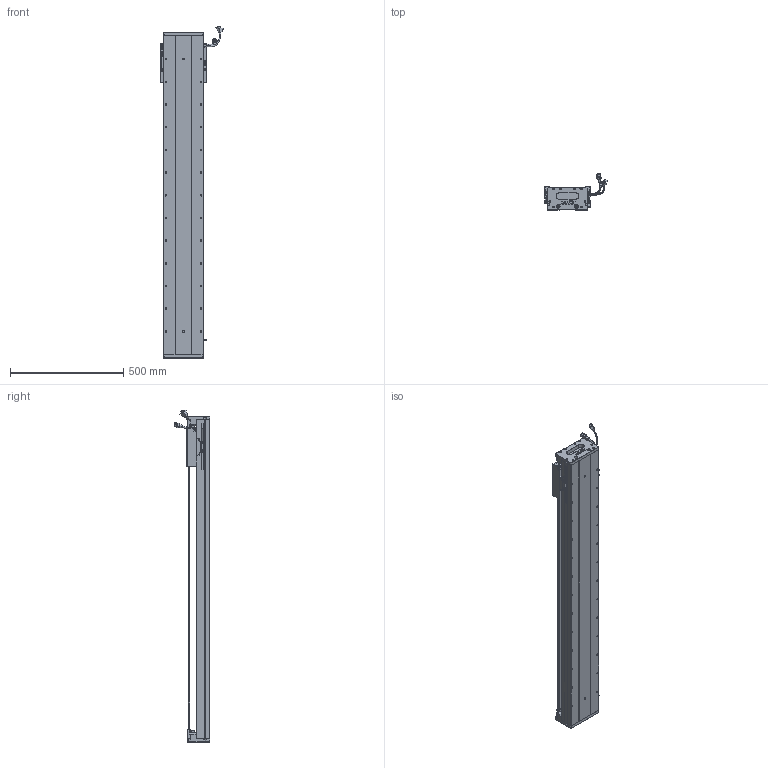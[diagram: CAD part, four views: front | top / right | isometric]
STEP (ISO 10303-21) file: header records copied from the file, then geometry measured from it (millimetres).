
FILE_DESCRIPTION (( 'STEP AP203' ), '1' );
FILE_NAME ('Z2-RY170D-1-L500-B-K.SLDASM_1150.step', '2021-05-17T09:07:40', ( '盈信电脑' ), ( '东莞市道滘镇水果街19号' ), 'SwSTEP 2.0', 'SolidWorks 2016', '' );
FILE_SCHEMA (( 'CONFIG_CONTROL_DESIGN' ));
Length unit declared in the file: millimetre
Products named in the file (36): SCREW-M1.7-1; LABEL; HARNESS-Part-1; COVER-Part-1; SCREW-M1.6-2; Z2-RY170臏賑輸(21遴); SCALE-Part-2; PSLH080_PSLF2; SCALE; SCREW-M1.6-3; SEAL; LABEL-Part-1; Z2-RY170-L500耀郪菁釱_1150; SHIELDPLATE; Z-RY170詩湍奻揤裔; SCREW-M1.7; COVER; SEAL-Part-1; 170-Z-臏賑輸盄裔(21遴); Z2-RY170-L500詩湍145mm遵_1150; 榋妏寠巭燃_暯_M2_2; 140雄赽晤鎢ん堤盄; PBU_SHEET; Z-170詩湍傷裔啣; SCALE-Part-1; Z2-RY170D-1-L500-B-K.SLDASM_1150; 140蚥薯蝶輸; SCREW-M1.6; HOLDER0; SCREW-M1.6-1; HARNESS; 080黍杅芛假蚾釱21遴; 覜茼ん672; Z-RY170詩湍狟揤裔; HARNESS-Part-2; RY170直线电机感应器672光电感应片
Assembly tree (41 placements, depth 4):
  Z2-RY170D-1-L500-B-K.SLDASM_1150
    Z2-RY170-L500耀郪菁釱_1150
    RY170直线电机感应器672光电感应片
    Z2-RY170臏賑輸(21遴)
    覜茼ん672  x3
    PSLH080_PSLF2
      SCALE
        SCALE-Part-1
        SCALE-Part-2
      HARNESS
        HARNESS-Part-1
        HARNESS-Part-2
      LABEL
        LABEL-Part-1
      COVER
        COVER-Part-1
      SEAL
        SEAL-Part-1
      榋妏寠巭燃_暯_M2_2
      SHIELDPLATE
      SCREW-M1.7
      SCREW-M1.7-1
      PBU_SHEET
      SCREW-M1.6
      SCREW-M1.6-1
      SCREW-M1.6-2
      SCREW-M1.6-3
      HOLDER0
    080黍杅芛假蚾釱21遴
    Z2-RY170-L500詩湍145mm遵_1150
    Z-170詩湍傷裔啣  x2
    Z-RY170詩湍奻揤裔  x2
    Z-RY170詩湍狟揤裔  x2
    140蚥薯蝶輸  x2
    170-Z-臏賑輸盄裔(21遴)
    140雄赽晤鎢ん堤盄
Bounding box: 275.34 x 158.11 x 1463.72 mm (x, y, z)
Volume: 7761508.9 mm3; surface area: 1901333.7 mm2
Topology: 36 solids, 36 shells, 3246 faces, 8745 edges, 5481 vertices
Faces by surface type: cylinder 1508, plane 1188, cone 428, torus 69, bspline 53
Entity records: 96513 total; most frequent: CARTESIAN_POINT 25014, ORIENTED_EDGE 14238, DIRECTION 13895, EDGE_CURVE 7119, AXIS2_PLACEMENT_3D 5096, VERTEX_POINT 4599, LINE 3703, VECTOR 3703
